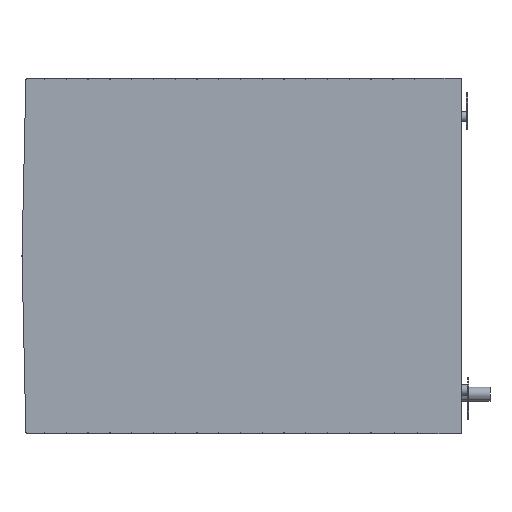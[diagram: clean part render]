
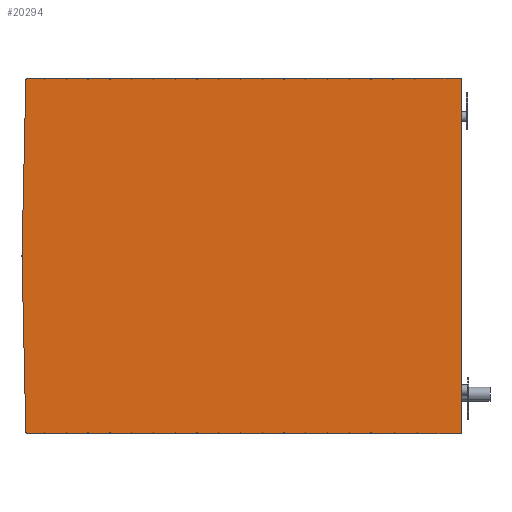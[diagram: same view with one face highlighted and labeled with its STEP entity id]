
A CAD part, left-side view. The second image highlights one B-rep face of the part: STEP entity #20294.
In plain terms, the highlighted planar face has unit normal (-1, 0, 0).
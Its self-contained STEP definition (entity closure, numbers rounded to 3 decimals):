
#202 = EDGE_CURVE ( 'NONE', #22069, #20186, #18370, .T. ) ;
#840 = VECTOR ( 'NONE', #21336, 1000. ) ;
#910 = EDGE_CURVE ( 'NONE', #21859, #2417, #12111, .T. ) ;
#1050 = VECTOR ( 'NONE', #24772, 1000. ) ;
#1361 = AXIS2_PLACEMENT_3D ( 'NONE', #5275, #25825, #16601 ) ;
#1417 = ORIENTED_EDGE ( 'NONE', *, *, #12895, .T. ) ;
#1494 = AXIS2_PLACEMENT_3D ( 'NONE', #15137, #10698, #5936 ) ;
#2134 = CARTESIAN_POINT ( 'NONE',  ( -575., 0., -357.498 ) ) ;
#2417 = VERTEX_POINT ( 'NONE', #11959 ) ;
#2442 = CARTESIAN_POINT ( 'NONE',  ( -575., 0., 355.5 ) ) ;
#3218 = DIRECTION ( 'NONE',  ( 0., -1., 0. ) ) ;
#3391 = DIRECTION ( 'NONE',  ( -1., 0., 0. ) ) ;
#3563 = DIRECTION ( 'NONE',  ( 0., 1., 0. ) ) ;
#3643 = CARTESIAN_POINT ( 'NONE',  ( -575., 870.101, -354.578 ) ) ;
#3821 = AXIS2_PLACEMENT_3D ( 'NONE', #17007, #3391, #12517 ) ;
#4139 = VERTEX_POINT ( 'NONE', #21872 ) ;
#4261 = VERTEX_POINT ( 'NONE', #20729 ) ;
#4336 = EDGE_CURVE ( 'NONE', #21503, #10835, #29426, .T. ) ;
#4798 = CARTESIAN_POINT ( 'NONE',  ( -575., 83., -357.498 ) ) ;
#5275 = CARTESIAN_POINT ( 'NONE',  ( -575., 0., 0. ) ) ;
#5405 = VERTEX_POINT ( 'NONE', #20438 ) ;
#5572 = DIRECTION ( 'NONE',  ( 0., 1., 0. ) ) ;
#5677 = CARTESIAN_POINT ( 'NONE',  ( -575., 89.3, 357.5 ) ) ;
#5812 = ORIENTED_EDGE ( 'NONE', *, *, #15419, .T. ) ;
#5849 = LINE ( 'NONE', #8061, #6563 ) ;
#5936 = DIRECTION ( 'NONE',  ( 0., 0., -1. ) ) ;
#6256 = CIRCLE ( 'NONE', #3821, 2.9 ) ;
#6563 = VECTOR ( 'NONE', #3563, 1000. ) ;
#6615 = EDGE_CURVE ( 'NONE', #20186, #7558, #11542, .T. ) ;
#6635 = DIRECTION ( 'NONE',  ( -1., 0., 0. ) ) ;
#7558 = VERTEX_POINT ( 'NONE', #20061 ) ;
#7589 = DIRECTION ( 'NONE',  ( 0., 0., 1. ) ) ;
#7629 = PLANE ( 'NONE',  #1361 ) ;
#7712 = EDGE_CURVE ( 'NONE', #2417, #22903, #29074, .T. ) ;
#8061 = CARTESIAN_POINT ( 'NONE',  ( -575., 870.101, 357.478 ) ) ;
#8072 = ORIENTED_EDGE ( 'NONE', *, *, #7712, .T. ) ;
#8752 = CARTESIAN_POINT ( 'NONE',  ( -575., 0., 357.5 ) ) ;
#8944 = ORIENTED_EDGE ( 'NONE', *, *, #24340, .T. ) ;
#9029 = ORIENTED_EDGE ( 'NONE', *, *, #17810, .T. ) ;
#9342 = AXIS2_PLACEMENT_3D ( 'NONE', #2442, #6635, #27489 ) ;
#9381 = EDGE_CURVE ( 'NONE', #12784, #4261, #23655, .T. ) ;
#10062 = DIRECTION ( 'NONE',  ( 0., 0.022, -1. ) ) ;
#10698 = DIRECTION ( 'NONE',  ( -1., 0., 0. ) ) ;
#10835 = VERTEX_POINT ( 'NONE', #5677 ) ;
#11378 = CARTESIAN_POINT ( 'NONE',  ( -575., 83., -357.498 ) ) ;
#11542 = CIRCLE ( 'NONE', #15329, 2. ) ;
#11959 = CARTESIAN_POINT ( 'NONE',  ( -575., 880.737, 0.039 ) ) ;
#12009 = ORIENTED_EDGE ( 'NONE', *, *, #18627, .T. ) ;
#12111 = LINE ( 'NONE', #16749, #24402 ) ;
#12297 = CARTESIAN_POINT ( 'NONE',  ( -575., 0., -355.498 ) ) ;
#12371 = LINE ( 'NONE', #23685, #15159 ) ;
#12517 = DIRECTION ( 'NONE',  ( 0., 0., -1. ) ) ;
#12784 = VERTEX_POINT ( 'NONE', #24621 ) ;
#12853 = EDGE_CURVE ( 'NONE', #22903, #23816, #14908, .T. ) ;
#12895 = EDGE_CURVE ( 'NONE', #4139, #17138, #5849, .T. ) ;
#14908 = LINE ( 'NONE', #23699, #840 ) ;
#15137 = CARTESIAN_POINT ( 'NONE',  ( -575., 878.938, 0. ) ) ;
#15159 = VECTOR ( 'NONE', #7589, 1000. ) ;
#15329 = AXIS2_PLACEMENT_3D ( 'NONE', #12297, #28400, #16781 ) ;
#15419 = EDGE_CURVE ( 'NONE', #17138, #21859, #6256, .T. ) ;
#16036 = CARTESIAN_POINT ( 'NONE',  ( -575., 873., 354.642 ) ) ;
#16601 = DIRECTION ( 'NONE',  ( 0., 0., -1. ) ) ;
#16749 = CARTESIAN_POINT ( 'NONE',  ( -575., 873., 354.642 ) ) ;
#16781 = DIRECTION ( 'NONE',  ( 0., 0., -1. ) ) ;
#17007 = CARTESIAN_POINT ( 'NONE',  ( -575., 870.101, 354.578 ) ) ;
#17062 = LINE ( 'NONE', #28818, #20236 ) ;
#17138 = VERTEX_POINT ( 'NONE', #25016 ) ;
#17242 = CARTESIAN_POINT ( 'NONE',  ( -575., 863.988, -357.478 ) ) ;
#17350 = ORIENTED_EDGE ( 'NONE', *, *, #202, .T. ) ;
#17810 = EDGE_CURVE ( 'NONE', #10835, #4139, #17062, .T. ) ;
#18254 = DIRECTION ( 'NONE',  ( 0., 1., 0. ) ) ;
#18370 = LINE ( 'NONE', #4798, #1050 ) ;
#18627 = EDGE_CURVE ( 'NONE', #5405, #21503, #28920, .T. ) ;
#18638 = ORIENTED_EDGE ( 'NONE', *, *, #910, .T. ) ;
#18828 = FACE_OUTER_BOUND ( 'NONE', #27771, .T. ) ;
#19177 = ORIENTED_EDGE ( 'NONE', *, *, #9381, .T. ) ;
#19285 = CARTESIAN_POINT ( 'NONE',  ( -575., 880.737, -0.039 ) ) ;
#19308 = EDGE_CURVE ( 'NONE', #4261, #22069, #21677, .T. ) ;
#19375 = ORIENTED_EDGE ( 'NONE', *, *, #12853, .T. ) ;
#19692 = ORIENTED_EDGE ( 'NONE', *, *, #6615, .T. ) ;
#20061 = CARTESIAN_POINT ( 'NONE',  ( -575., -2., -355.498 ) ) ;
#20139 = CARTESIAN_POINT ( 'NONE',  ( -575., 873., -354.642 ) ) ;
#20186 = VERTEX_POINT ( 'NONE', #2134 ) ;
#20236 = VECTOR ( 'NONE', #5572, 1000. ) ;
#20294 = ADVANCED_FACE ( 'NONE', ( #18828 ), #7629, .F. ) ;
#20438 = CARTESIAN_POINT ( 'NONE',  ( -575., -2., 355.5 ) ) ;
#20600 = EDGE_CURVE ( 'NONE', #7558, #5405, #12371, .T. ) ;
#20729 = CARTESIAN_POINT ( 'NONE',  ( -575., 863.988, -357.478 ) ) ;
#20765 = CARTESIAN_POINT ( 'NONE',  ( -575., 89.3, 357.5 ) ) ;
#21087 = VECTOR ( 'NONE', #3218, 1000. ) ;
#21281 = VECTOR ( 'NONE', #26313, 1000. ) ;
#21289 = AXIS2_PLACEMENT_3D ( 'NONE', #3643, #23124, #24666 ) ;
#21336 = DIRECTION ( 'NONE',  ( 0., -0.022, -1. ) ) ;
#21503 = VERTEX_POINT ( 'NONE', #8752 ) ;
#21677 = LINE ( 'NONE', #17242, #21281 ) ;
#21846 = ORIENTED_EDGE ( 'NONE', *, *, #19308, .T. ) ;
#21859 = VERTEX_POINT ( 'NONE', #16036 ) ;
#21872 = CARTESIAN_POINT ( 'NONE',  ( -575., 863.988, 357.478 ) ) ;
#22069 = VERTEX_POINT ( 'NONE', #11378 ) ;
#22903 = VERTEX_POINT ( 'NONE', #19285 ) ;
#23124 = DIRECTION ( 'NONE',  ( -1., 0., 0. ) ) ;
#23364 = CARTESIAN_POINT ( 'NONE',  ( -575., 870.101, -357.478 ) ) ;
#23655 = LINE ( 'NONE', #23364, #21087 ) ;
#23685 = CARTESIAN_POINT ( 'NONE',  ( -575., -2., 355.5 ) ) ;
#23699 = CARTESIAN_POINT ( 'NONE',  ( -575., 880.737, -0.039 ) ) ;
#23816 = VERTEX_POINT ( 'NONE', #20139 ) ;
#24340 = EDGE_CURVE ( 'NONE', #23816, #12784, #27022, .T. ) ;
#24402 = VECTOR ( 'NONE', #10062, 1000. ) ;
#24621 = CARTESIAN_POINT ( 'NONE',  ( -575., 870.101, -357.478 ) ) ;
#24666 = DIRECTION ( 'NONE',  ( 0., 0., -1. ) ) ;
#24772 = DIRECTION ( 'NONE',  ( 0., -1., 0. ) ) ;
#25016 = CARTESIAN_POINT ( 'NONE',  ( -575., 870.101, 357.478 ) ) ;
#25551 = ORIENTED_EDGE ( 'NONE', *, *, #4336, .T. ) ;
#25825 = DIRECTION ( 'NONE',  ( 1., 0., 0. ) ) ;
#26313 = DIRECTION ( 'NONE',  ( 0., -1., 0. ) ) ;
#27022 = CIRCLE ( 'NONE', #21289, 2.9 ) ;
#27031 = VECTOR ( 'NONE', #18254, 1000. ) ;
#27489 = DIRECTION ( 'NONE',  ( 0., 0., -1. ) ) ;
#27771 = EDGE_LOOP ( 'NONE', ( #21846, #17350, #19692, #29280, #12009, #25551, #9029, #1417, #5812, #18638, #8072, #19375, #8944, #19177 ) ) ;
#28400 = DIRECTION ( 'NONE',  ( -1., 0., 0. ) ) ;
#28818 = CARTESIAN_POINT ( 'NONE',  ( -575., 863.988, 357.478 ) ) ;
#28920 = CIRCLE ( 'NONE', #9342, 2. ) ;
#29074 = CIRCLE ( 'NONE', #1494, 1.8 ) ;
#29280 = ORIENTED_EDGE ( 'NONE', *, *, #20600, .T. ) ;
#29426 = LINE ( 'NONE', #20765, #27031 ) ;
